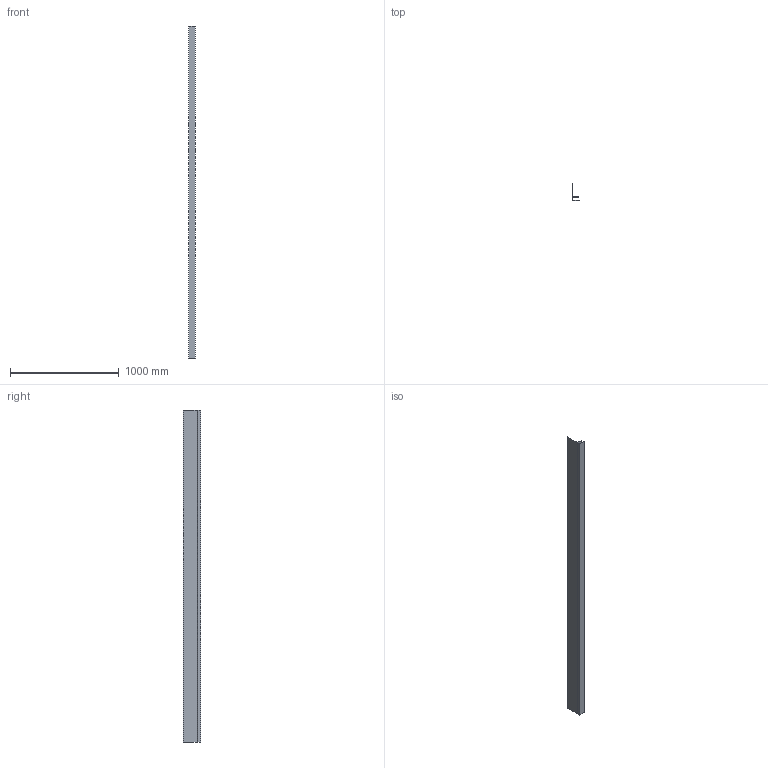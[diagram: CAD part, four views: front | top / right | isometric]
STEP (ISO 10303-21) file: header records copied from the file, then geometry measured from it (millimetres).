
FILE_DESCRIPTION (( 'STEP AP203' ), '1' );
FILE_NAME ('M40A.STEP', '2018-06-14T20:39:01', ( 'Michael Moliner' ), ( '' ), 'SwSTEP 2.0', 'SolidWorks 2018', '' );
FILE_SCHEMA (( 'CONFIG_CONTROL_DESIGN' ));
Length unit declared in the file: inch
Products named in the file (2): M40A
Bounding box: 63.5 x 158.12 x 3048 mm (x, y, z)
Volume: 495802.6 mm3; surface area: 1955400.7 mm2
Topology: 1 solids, 1 shells, 22 faces, 60 edges, 40 vertices
Faces by surface type: plane 14, cylinder 8
Entity records: 857 total; most frequent: CARTESIAN_POINT 124, DIRECTION 124, ORIENTED_EDGE 120, EDGE_CURVE 60, VECTOR 44, LINE 44, VERTEX_POINT 40, AXIS2_PLACEMENT_3D 40
